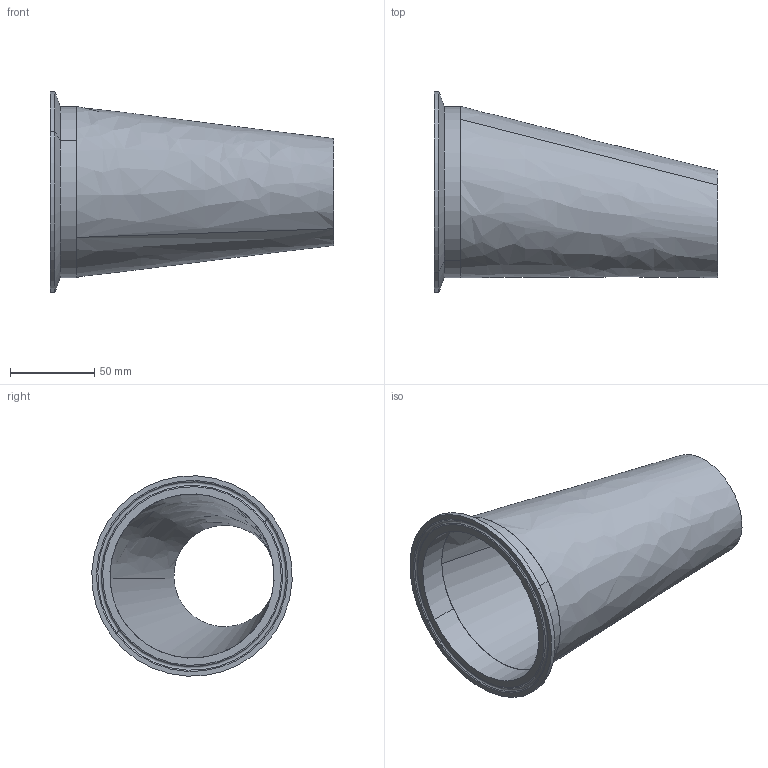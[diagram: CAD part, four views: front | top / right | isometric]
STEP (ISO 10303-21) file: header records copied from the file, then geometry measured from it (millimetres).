
FILE_DESCRIPTION (( 'STEP AP203' ), '1' );
FILE_NAME ('E32CW 4.0X2.5.STEP', '2021-10-18T20:01:18', ( '' ), ( '' ), 'SwSTEP 2.0', 'SolidWorks 2021', '' );
FILE_SCHEMA (( 'CONFIG_CONTROL_DESIGN' ));
Length unit declared in the file: inch
Products named in the file (3): E32CW 4.0X2.5; EG2CS4.0; E32WW4.0X2.5
Assembly tree (2 placements, depth 2):
  E32CW 4.0X2.5
    E32WW4.0X2.5
    EG2CS4.0
Bounding box: 168.28 x 118.75 x 118.75 mm (x, y, z)
Volume: 91523.4 mm3; surface area: 95899.7 mm2
Topology: 2 solids, 2 shells, 23 faces, 46 edges, 28 vertices
Faces by surface type: cylinder 6, torus 6, plane 5, bspline 4, cone 2
Entity records: 1629 total; most frequent: CARTESIAN_POINT 822, DIRECTION 124, ORIENTED_EDGE 92, AXIS2_PLACEMENT_3D 58, EDGE_CURVE 46, CIRCLE 34, EDGE_LOOP 28, VERTEX_POINT 28
